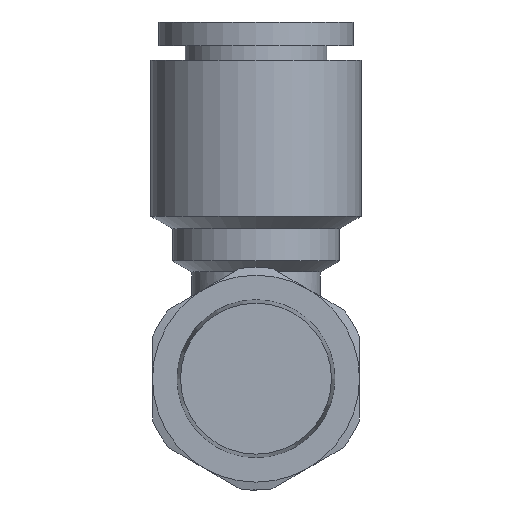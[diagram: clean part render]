
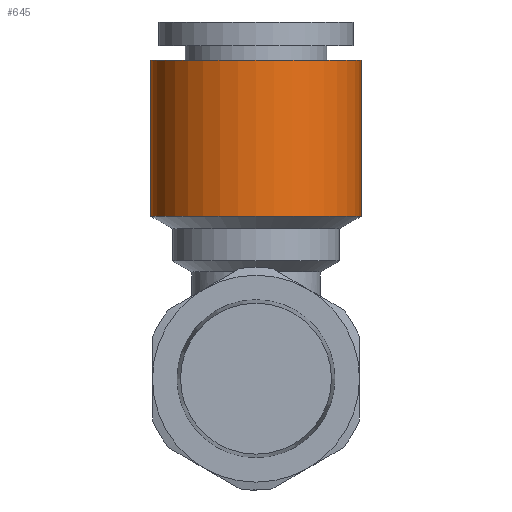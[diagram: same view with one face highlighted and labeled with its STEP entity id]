
A CAD part, front view. The second image highlights one B-rep face of the part: STEP entity #645.
In plain terms, the highlighted cylindrical face has radius 6.6 mm (diameter 13.2 mm), a full revolution.
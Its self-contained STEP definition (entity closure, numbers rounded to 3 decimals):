
#68=CYLINDRICAL_SURFACE('',#724,6.6);
#146=ORIENTED_EDGE('',*,*,#318,.F.);
#147=ORIENTED_EDGE('',*,*,#317,.T.);
#317=EDGE_CURVE('',#401,#401,#450,.T.);
#318=EDGE_CURVE('',#402,#402,#451,.T.);
#401=VERTEX_POINT('',#1127);
#402=VERTEX_POINT('',#1130);
#450=CIRCLE('',#723,6.6);
#451=CIRCLE('',#725,6.6);
#497=EDGE_LOOP('',(#146));
#498=EDGE_LOOP('',(#147));
#566=FACE_BOUND('',#497,.T.);
#567=FACE_BOUND('',#498,.T.);
#645=ADVANCED_FACE('',(#566,#567),#68,.T.);
#723=AXIS2_PLACEMENT_3D('',#1126,#849,#850);
#724=AXIS2_PLACEMENT_3D('',#1128,#851,#852);
#725=AXIS2_PLACEMENT_3D('',#1129,#853,#854);
#849=DIRECTION('',(0.,0.,-1.));
#850=DIRECTION('',(-1.,0.,0.));
#851=DIRECTION('',(0.,0.,-1.));
#852=DIRECTION('',(-1.,0.,0.));
#853=DIRECTION('',(0.,0.,-1.));
#854=DIRECTION('',(-1.,0.,0.));
#1126=CARTESIAN_POINT('',(0.,16.,20.));
#1127=CARTESIAN_POINT('',(-6.6,16.,20.));
#1128=CARTESIAN_POINT('',(0.,16.,0.));
#1129=CARTESIAN_POINT('',(0.,16.,10.2));
#1130=CARTESIAN_POINT('',(-6.6,16.,10.2));
